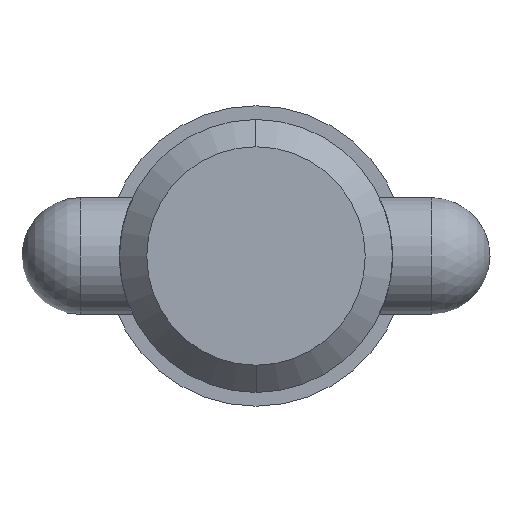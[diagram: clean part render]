
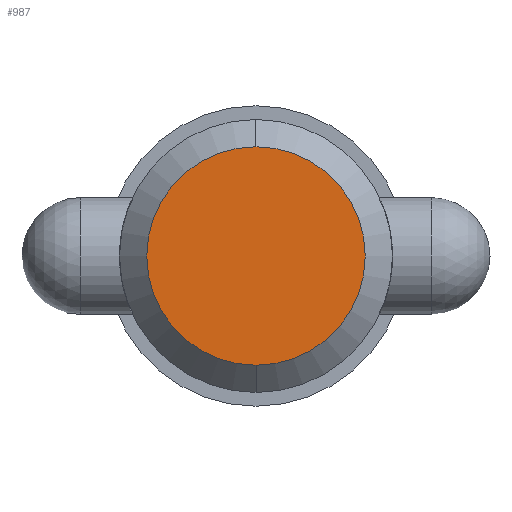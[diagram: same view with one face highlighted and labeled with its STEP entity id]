
A CAD part, left-side view. The second image highlights one B-rep face of the part: STEP entity #987.
In plain terms, the highlighted planar face has unit normal (-1, 0, 0).
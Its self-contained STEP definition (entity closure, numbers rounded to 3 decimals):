
#21 = AXIS2_PLACEMENT_3D ( 'NONE', #406, #93, #249 ) ;
#63 = FACE_OUTER_BOUND ( 'NONE', #887, .T. ) ;
#83 = ORIENTED_EDGE ( 'NONE', *, *, #268, .F. ) ;
#93 = DIRECTION ( 'NONE',  ( 1., 0., 0. ) ) ;
#126 = VERTEX_POINT ( 'NONE', #989 ) ;
#249 = DIRECTION ( 'NONE',  ( 0., 0., -1. ) ) ;
#268 = EDGE_CURVE ( 'NONE', #434, #126, #867, .T. ) ;
#294 = CARTESIAN_POINT ( 'NONE',  ( 0., 0., 0. ) ) ;
#310 = PLANE ( 'NONE',  #606 ) ;
#327 = EDGE_CURVE ( 'NONE', #126, #434, #536, .T. ) ;
#398 = DIRECTION ( 'NONE',  ( 0., 0., -1. ) ) ;
#406 = CARTESIAN_POINT ( 'NONE',  ( 0., 0., 0. ) ) ;
#434 = VERTEX_POINT ( 'NONE', #510 ) ;
#510 = CARTESIAN_POINT ( 'NONE',  ( 0., 0., 8.892 ) ) ;
#517 = AXIS2_PLACEMENT_3D ( 'NONE', #814, #977, #398 ) ;
#536 = CIRCLE ( 'NONE', #21, 8.892 ) ;
#606 = AXIS2_PLACEMENT_3D ( 'NONE', #294, #894, #701 ) ;
#687 = ORIENTED_EDGE ( 'NONE', *, *, #327, .F. ) ;
#701 = DIRECTION ( 'NONE',  ( 0., 0., 1. ) ) ;
#814 = CARTESIAN_POINT ( 'NONE',  ( 0., 0., 0. ) ) ;
#867 = CIRCLE ( 'NONE', #517, 8.892 ) ;
#887 = EDGE_LOOP ( 'NONE', ( #687, #83 ) ) ;
#894 = DIRECTION ( 'NONE',  ( -1., 0., 0. ) ) ;
#977 = DIRECTION ( 'NONE',  ( 1., 0., 0. ) ) ;
#987 = ADVANCED_FACE ( 'NONE', ( #63 ), #310, .T. ) ;
#989 = CARTESIAN_POINT ( 'NONE',  ( 0., 0., -8.892 ) ) ;
